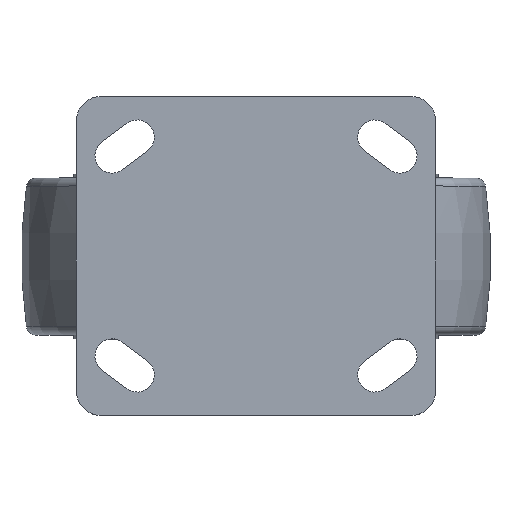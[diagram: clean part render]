
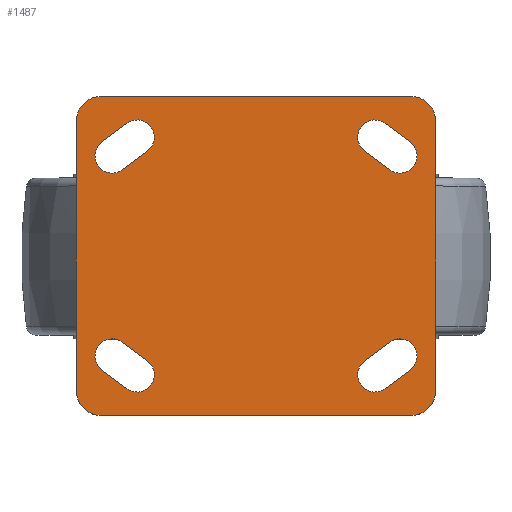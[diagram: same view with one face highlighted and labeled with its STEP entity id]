
A CAD part, top view. The second image highlights one B-rep face of the part: STEP entity #1487.
In plain terms, the highlighted planar face has unit normal (0, 0, 1).
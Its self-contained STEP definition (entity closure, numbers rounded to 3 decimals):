
#952=PLANE('',#10351);
#1208=FACE_BOUND('',#2856,.T.);
#1209=FACE_BOUND('',#2857,.T.);
#1210=FACE_BOUND('',#2858,.T.);
#1211=FACE_BOUND('',#2859,.T.);
#1212=FACE_BOUND('',#2860,.T.);
#1487=ADVANCED_FACE('',(#1208,#1209,#1210,#1211,#1212),#952,.T.);
#2856=EDGE_LOOP('',(#4820,#4821,#4822,#4823,#4824,#4825,#4826,#4827));
#2857=EDGE_LOOP('',(#4828,#4829,#4830,#4831));
#2858=EDGE_LOOP('',(#4832,#4833,#4834,#4835));
#2859=EDGE_LOOP('',(#4836,#4837,#4838,#4839));
#2860=EDGE_LOOP('',(#4840,#4841,#4842,#4843));
#3376=CIRCLE('',#10339,8.);
#3377=CIRCLE('',#10340,8.);
#3378=CIRCLE('',#10341,8.);
#3379=CIRCLE('',#10342,8.);
#3380=CIRCLE('',#10343,5.5);
#3381=CIRCLE('',#10344,5.5);
#3382=CIRCLE('',#10345,5.5);
#3383=CIRCLE('',#10346,5.5);
#3384=CIRCLE('',#10347,5.5);
#3385=CIRCLE('',#10348,5.5);
#3386=CIRCLE('',#10349,5.5);
#3387=CIRCLE('',#10350,5.5);
#4820=ORIENTED_EDGE('',*,*,#8202,.T.);
#4821=ORIENTED_EDGE('',*,*,#8203,.F.);
#4822=ORIENTED_EDGE('',*,*,#8204,.T.);
#4823=ORIENTED_EDGE('',*,*,#8205,.F.);
#4824=ORIENTED_EDGE('',*,*,#8206,.F.);
#4825=ORIENTED_EDGE('',*,*,#8207,.T.);
#4826=ORIENTED_EDGE('',*,*,#8208,.F.);
#4827=ORIENTED_EDGE('',*,*,#8209,.F.);
#4828=ORIENTED_EDGE('',*,*,#8210,.T.);
#4829=ORIENTED_EDGE('',*,*,#8211,.T.);
#4830=ORIENTED_EDGE('',*,*,#8212,.T.);
#4831=ORIENTED_EDGE('',*,*,#8213,.T.);
#4832=ORIENTED_EDGE('',*,*,#8214,.F.);
#4833=ORIENTED_EDGE('',*,*,#8215,.F.);
#4834=ORIENTED_EDGE('',*,*,#8216,.F.);
#4835=ORIENTED_EDGE('',*,*,#8217,.F.);
#4836=ORIENTED_EDGE('',*,*,#8218,.F.);
#4837=ORIENTED_EDGE('',*,*,#8219,.F.);
#4838=ORIENTED_EDGE('',*,*,#8220,.F.);
#4839=ORIENTED_EDGE('',*,*,#8221,.F.);
#4840=ORIENTED_EDGE('',*,*,#8222,.T.);
#4841=ORIENTED_EDGE('',*,*,#8223,.T.);
#4842=ORIENTED_EDGE('',*,*,#8224,.T.);
#4843=ORIENTED_EDGE('',*,*,#8225,.T.);
#7046=VERTEX_POINT('',#21500);
#7047=VERTEX_POINT('',#21501);
#7048=VERTEX_POINT('',#21503);
#7049=VERTEX_POINT('',#21505);
#7050=VERTEX_POINT('',#21507);
#7051=VERTEX_POINT('',#21509);
#7052=VERTEX_POINT('',#21511);
#7053=VERTEX_POINT('',#21513);
#7054=VERTEX_POINT('',#21516);
#7055=VERTEX_POINT('',#21517);
#7056=VERTEX_POINT('',#21519);
#7057=VERTEX_POINT('',#21521);
#7058=VERTEX_POINT('',#21524);
#7059=VERTEX_POINT('',#21525);
#7060=VERTEX_POINT('',#21527);
#7061=VERTEX_POINT('',#21529);
#7062=VERTEX_POINT('',#21532);
#7063=VERTEX_POINT('',#21533);
#7064=VERTEX_POINT('',#21535);
#7065=VERTEX_POINT('',#21537);
#7066=VERTEX_POINT('',#21540);
#7067=VERTEX_POINT('',#21541);
#7068=VERTEX_POINT('',#21543);
#7069=VERTEX_POINT('',#21545);
#8202=EDGE_CURVE('',#7046,#7047,#3376,.T.);
#8203=EDGE_CURVE('',#7048,#7047,#9112,.T.);
#8204=EDGE_CURVE('',#7048,#7049,#3377,.T.);
#8205=EDGE_CURVE('',#7050,#7049,#9113,.T.);
#8206=EDGE_CURVE('',#7051,#7050,#3378,.T.);
#8207=EDGE_CURVE('',#7051,#7052,#9114,.T.);
#8208=EDGE_CURVE('',#7053,#7052,#3379,.T.);
#8209=EDGE_CURVE('',#7046,#7053,#9115,.T.);
#8210=EDGE_CURVE('',#7054,#7055,#9116,.T.);
#8211=EDGE_CURVE('',#7055,#7056,#3380,.T.);
#8212=EDGE_CURVE('',#7056,#7057,#9117,.T.);
#8213=EDGE_CURVE('',#7057,#7054,#3381,.T.);
#8214=EDGE_CURVE('',#7058,#7059,#9118,.T.);
#8215=EDGE_CURVE('',#7060,#7058,#3382,.T.);
#8216=EDGE_CURVE('',#7061,#7060,#9119,.T.);
#8217=EDGE_CURVE('',#7059,#7061,#3383,.T.);
#8218=EDGE_CURVE('',#7062,#7063,#3384,.T.);
#8219=EDGE_CURVE('',#7064,#7062,#9120,.T.);
#8220=EDGE_CURVE('',#7065,#7064,#3385,.T.);
#8221=EDGE_CURVE('',#7063,#7065,#9121,.T.);
#8222=EDGE_CURVE('',#7066,#7067,#3386,.T.);
#8223=EDGE_CURVE('',#7067,#7068,#9122,.T.);
#8224=EDGE_CURVE('',#7068,#7069,#3387,.T.);
#8225=EDGE_CURVE('',#7069,#7066,#9123,.T.);
#9112=LINE('',#21502,#9677);
#9113=LINE('',#21506,#9678);
#9114=LINE('',#21510,#9679);
#9115=LINE('',#21514,#9680);
#9116=LINE('',#21515,#9681);
#9117=LINE('',#21520,#9682);
#9118=LINE('',#21523,#9683);
#9119=LINE('',#21528,#9684);
#9120=LINE('',#21534,#9685);
#9121=LINE('',#21538,#9686);
#9122=LINE('',#21542,#9687);
#9123=LINE('',#21546,#9688);
#9677=VECTOR('',#11496,1.);
#9678=VECTOR('',#11499,1.);
#9679=VECTOR('',#11502,1.);
#9680=VECTOR('',#11505,1.);
#9681=VECTOR('',#11506,1.);
#9682=VECTOR('',#11509,1.);
#9683=VECTOR('',#11512,1.);
#9684=VECTOR('',#11515,1.);
#9685=VECTOR('',#11520,1.);
#9686=VECTOR('',#11523,1.);
#9687=VECTOR('',#11526,1.);
#9688=VECTOR('',#11529,1.);
#10339=AXIS2_PLACEMENT_3D('',#21499,#11494,#11495);
#10340=AXIS2_PLACEMENT_3D('',#21504,#11497,#11498);
#10341=AXIS2_PLACEMENT_3D('',#21508,#11500,#11501);
#10342=AXIS2_PLACEMENT_3D('',#21512,#11503,#11504);
#10343=AXIS2_PLACEMENT_3D('',#21518,#11507,#11508);
#10344=AXIS2_PLACEMENT_3D('',#21522,#11510,#11511);
#10345=AXIS2_PLACEMENT_3D('',#21526,#11513,#11514);
#10346=AXIS2_PLACEMENT_3D('',#21530,#11516,#11517);
#10347=AXIS2_PLACEMENT_3D('',#21531,#11518,#11519);
#10348=AXIS2_PLACEMENT_3D('',#21536,#11521,#11522);
#10349=AXIS2_PLACEMENT_3D('',#21539,#11524,#11525);
#10350=AXIS2_PLACEMENT_3D('',#21544,#11527,#11528);
#10351=AXIS2_PLACEMENT_3D('',#21547,#11530,#11531);
#11494=DIRECTION('',(0.,0.,1.));
#11495=DIRECTION('',(1.,0.,0.));
#11496=DIRECTION('',(1.,0.,0.));
#11497=DIRECTION('',(0.,0.,1.));
#11498=DIRECTION('',(0.,1.,0.));
#11499=DIRECTION('',(0.,1.,0.));
#11500=DIRECTION('',(0.,0.,-1.));
#11501=DIRECTION('',(0.,-1.,0.));
#11502=DIRECTION('',(1.,0.,0.));
#11503=DIRECTION('',(0.,0.,-1.));
#11504=DIRECTION('',(1.,0.,0.));
#11505=DIRECTION('',(0.,-1.,0.));
#11506=DIRECTION('',(0.8,-0.6,0.));
#11507=DIRECTION('',(0.,0.,-1.));
#11508=DIRECTION('',(0.6,0.8,0.));
#11509=DIRECTION('',(-0.8,0.6,0.));
#11510=DIRECTION('',(0.,0.,-1.));
#11511=DIRECTION('',(-0.6,-0.8,0.));
#11512=DIRECTION('',(-0.8,-0.6,0.));
#11513=DIRECTION('',(0.,0.,1.));
#11514=DIRECTION('',(0.6,-0.8,0.));
#11515=DIRECTION('',(0.8,0.6,0.));
#11516=DIRECTION('',(0.,0.,1.));
#11517=DIRECTION('',(-0.6,0.8,0.));
#11518=DIRECTION('',(0.,0.,1.));
#11519=DIRECTION('',(-0.6,-0.8,0.));
#11520=DIRECTION('',(0.8,-0.6,0.));
#11521=DIRECTION('',(0.,0.,1.));
#11522=DIRECTION('',(0.6,0.8,0.));
#11523=DIRECTION('',(-0.8,0.6,0.));
#11524=DIRECTION('',(0.,0.,-1.));
#11525=DIRECTION('',(0.6,-0.8,0.));
#11526=DIRECTION('',(0.8,0.6,0.));
#11527=DIRECTION('',(0.,0.,-1.));
#11528=DIRECTION('',(-0.6,0.8,0.));
#11529=DIRECTION('',(-0.8,-0.6,0.));
#11530=DIRECTION('',(0.,0.,1.));
#11531=DIRECTION('',(1.,0.,0.));
#21499=CARTESIAN_POINT('',(49.5,43.,0.));
#21500=CARTESIAN_POINT('',(57.5,43.,0.));
#21501=CARTESIAN_POINT('',(49.5,51.,0.));
#21502=CARTESIAN_POINT('',(-49.5,51.,0.));
#21503=CARTESIAN_POINT('',(-49.5,51.,0.));
#21504=CARTESIAN_POINT('',(-49.5,43.,0.));
#21505=CARTESIAN_POINT('',(-57.5,43.,0.));
#21506=CARTESIAN_POINT('',(-57.5,-43.,0.));
#21507=CARTESIAN_POINT('',(-57.5,-43.,0.));
#21508=CARTESIAN_POINT('',(-49.5,-43.,0.));
#21509=CARTESIAN_POINT('',(-49.5,-51.,0.));
#21510=CARTESIAN_POINT('',(-49.5,-51.,0.));
#21511=CARTESIAN_POINT('',(49.5,-51.,0.));
#21512=CARTESIAN_POINT('',(49.5,-43.,0.));
#21513=CARTESIAN_POINT('',(57.5,-43.,0.));
#21514=CARTESIAN_POINT('',(57.5,43.,0.));
#21515=CARTESIAN_POINT('',(-42.7,-27.6,0.));
#21516=CARTESIAN_POINT('',(-42.7,-27.6,0.));
#21517=CARTESIAN_POINT('',(-34.7,-33.6,0.));
#21518=CARTESIAN_POINT('',(-38.,-38.,0.));
#21519=CARTESIAN_POINT('',(-41.3,-42.4,0.));
#21520=CARTESIAN_POINT('',(-41.3,-42.4,0.));
#21521=CARTESIAN_POINT('',(-49.3,-36.4,0.));
#21522=CARTESIAN_POINT('',(-46.,-32.,0.));
#21523=CARTESIAN_POINT('',(-41.3,42.4,0.));
#21524=CARTESIAN_POINT('',(-41.3,42.4,0.));
#21525=CARTESIAN_POINT('',(-49.3,36.4,0.));
#21526=CARTESIAN_POINT('',(-38.,38.,0.));
#21527=CARTESIAN_POINT('',(-34.7,33.6,0.));
#21528=CARTESIAN_POINT('',(-42.7,27.6,0.));
#21529=CARTESIAN_POINT('',(-42.7,27.6,0.));
#21530=CARTESIAN_POINT('',(-46.,32.,0.));
#21531=CARTESIAN_POINT('',(46.,32.,0.));
#21532=CARTESIAN_POINT('',(42.7,27.6,0.));
#21533=CARTESIAN_POINT('',(49.3,36.4,0.));
#21534=CARTESIAN_POINT('',(34.7,33.6,0.));
#21535=CARTESIAN_POINT('',(34.7,33.6,0.));
#21536=CARTESIAN_POINT('',(38.,38.,0.));
#21537=CARTESIAN_POINT('',(41.3,42.4,0.));
#21538=CARTESIAN_POINT('',(49.3,36.4,0.));
#21539=CARTESIAN_POINT('',(38.,-38.,0.));
#21540=CARTESIAN_POINT('',(41.3,-42.4,0.));
#21541=CARTESIAN_POINT('',(34.7,-33.6,0.));
#21542=CARTESIAN_POINT('',(34.7,-33.6,0.));
#21543=CARTESIAN_POINT('',(42.7,-27.6,0.));
#21544=CARTESIAN_POINT('',(46.,-32.,0.));
#21545=CARTESIAN_POINT('',(49.3,-36.4,0.));
#21546=CARTESIAN_POINT('',(49.3,-36.4,0.));
#21547=CARTESIAN_POINT('',(0.,0.,0.));
